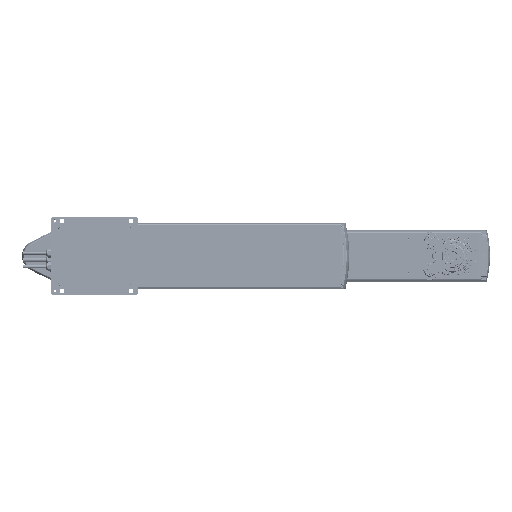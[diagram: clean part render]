
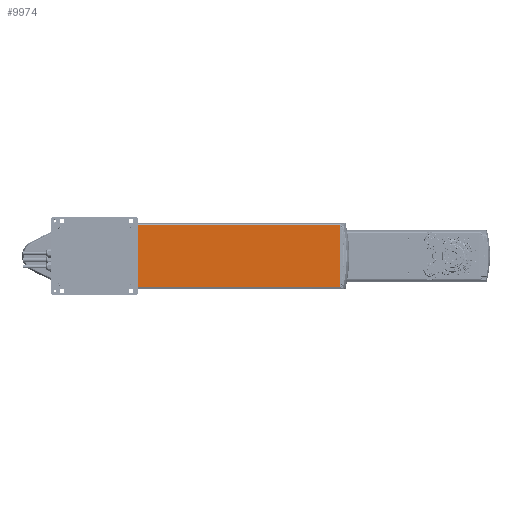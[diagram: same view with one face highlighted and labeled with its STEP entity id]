
A CAD part, front view. The second image highlights one B-rep face of the part: STEP entity #9974.
In plain terms, the highlighted planar face has unit normal (0, -1, 0) as drawn and (0, 0, 1) by its records, which use the part's own axes.
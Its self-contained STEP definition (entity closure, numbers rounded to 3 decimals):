
#629 = EDGE_CURVE ( 'NONE', #67348, #53483, #371543, .T. ) ;
#2817 = CARTESIAN_POINT ( 'NONE',  ( 0., 0., -1.5 ) ) ;
#6249 = VERTEX_POINT ( 'NONE', #113354 ) ;
#9974 = ADVANCED_FACE ( 'NONE', ( #70671, #368321 ), #204201, .T. ) ;
#13789 = CIRCLE ( 'NONE', #20973, 11.3 ) ;
#20973 = AXIS2_PLACEMENT_3D ( 'NONE', #204725, #101850, #73335 ) ;
#21072 = VECTOR ( 'NONE', #58029, 1000. ) ;
#27076 = EDGE_LOOP ( 'NONE', ( #158880, #199813 ) ) ;
#28089 = DIRECTION ( 'NONE',  ( 0., 0., -1. ) ) ;
#28091 = EDGE_CURVE ( 'NONE', #52772, #53483, #194124, .T. ) ;
#42358 = CARTESIAN_POINT ( 'NONE',  ( -110., 682., -1.5 ) ) ;
#52772 = VERTEX_POINT ( 'NONE', #219739 ) ;
#53483 = VERTEX_POINT ( 'NONE', #380146 ) ;
#58029 = DIRECTION ( 'NONE',  ( -1., 0., 0. ) ) ;
#60929 = CARTESIAN_POINT ( 'NONE',  ( 0., 680., -1.5 ) ) ;
#67348 = VERTEX_POINT ( 'NONE', #333648 ) ;
#70671 = FACE_BOUND ( 'NONE', #27076, .T. ) ;
#71717 = DIRECTION ( 'NONE',  ( 0., 1., 0. ) ) ;
#73335 = DIRECTION ( 'NONE',  ( 1., 0., 0. ) ) ;
#82088 = DIRECTION ( 'NONE',  ( 1., 0., 0. ) ) ;
#89223 = CARTESIAN_POINT ( 'NONE',  ( -88., 682., -1.5 ) ) ;
#89473 = EDGE_CURVE ( 'NONE', #118505, #177338, #245618, .T. ) ;
#101850 = DIRECTION ( 'NONE',  ( 0., 0., -1. ) ) ;
#104680 = DIRECTION ( 'NONE',  ( 0., 0., -1. ) ) ;
#106736 = CARTESIAN_POINT ( 'NONE',  ( 88., 775., -1.5 ) ) ;
#108126 = EDGE_CURVE ( 'NONE', #67348, #367220, #357878, .T. ) ;
#113354 = CARTESIAN_POINT ( 'NONE',  ( -88., 678., -1.5 ) ) ;
#118505 = VERTEX_POINT ( 'NONE', #223035 ) ;
#129467 = EDGE_CURVE ( 'NONE', #6249, #375878, #397832, .T. ) ;
#130622 = LINE ( 'NONE', #42358, #306466 ) ;
#135585 = EDGE_CURVE ( 'NONE', #145571, #296522, #13789, .T. ) ;
#136131 = CARTESIAN_POINT ( 'NONE',  ( -88., 0., -1.5 ) ) ;
#145571 = VERTEX_POINT ( 'NONE', #314301 ) ;
#152350 = ORIENTED_EDGE ( 'NONE', *, *, #310160, .T. ) ;
#154706 = DIRECTION ( 'NONE',  ( 0., -1., 0. ) ) ;
#158880 = ORIENTED_EDGE ( 'NONE', *, *, #135585, .T. ) ;
#163489 = DIRECTION ( 'NONE',  ( -1., 0., 0. ) ) ;
#171453 = ORIENTED_EDGE ( 'NONE', *, *, #377281, .F. ) ;
#177338 = VERTEX_POINT ( 'NONE', #349769 ) ;
#187245 = VECTOR ( 'NONE', #190109, 1000. ) ;
#190109 = DIRECTION ( 'NONE',  ( 1., 0., 0. ) ) ;
#194124 = LINE ( 'NONE', #421820, #329561 ) ;
#195587 = DIRECTION ( 'NONE',  ( 1., 0., 0. ) ) ;
#197729 = DIRECTION ( 'NONE',  ( 0., 0., 1. ) ) ;
#198427 = ORIENTED_EDGE ( 'NONE', *, *, #350466, .T. ) ;
#199064 = AXIS2_PLACEMENT_3D ( 'NONE', #2817, #197729, #195587 ) ;
#199813 = ORIENTED_EDGE ( 'NONE', *, *, #207848, .T. ) ;
#203824 = ORIENTED_EDGE ( 'NONE', *, *, #89473, .T. ) ;
#204201 = PLANE ( 'NONE',  #199064 ) ;
#204725 = CARTESIAN_POINT ( 'NONE',  ( 0., 589., -1.5 ) ) ;
#205363 = CARTESIAN_POINT ( 'NONE',  ( 0., 680., -1.5 ) ) ;
#207848 = EDGE_CURVE ( 'NONE', #296522, #145571, #285081, .T. ) ;
#208081 = DIRECTION ( 'NONE',  ( 1., 0., 0. ) ) ;
#214507 = VERTEX_POINT ( 'NONE', #89223 ) ;
#219739 = CARTESIAN_POINT ( 'NONE',  ( -88., 775., -1.5 ) ) ;
#222696 = DIRECTION ( 'NONE',  ( 1., 0., 0. ) ) ;
#223035 = CARTESIAN_POINT ( 'NONE',  ( -67.77, 682., -1.5 ) ) ;
#225906 = CARTESIAN_POINT ( 'NONE',  ( -67.77, 678., -1.5 ) ) ;
#227918 = CARTESIAN_POINT ( 'NONE',  ( -11.3, 589., -1.5 ) ) ;
#230860 = CARTESIAN_POINT ( 'NONE',  ( 0., 0., -1.5 ) ) ;
#238767 = CARTESIAN_POINT ( 'NONE',  ( 0., 589., -1.5 ) ) ;
#245618 = CIRCLE ( 'NONE', #357414, 67.8 ) ;
#253713 = ORIENTED_EDGE ( 'NONE', *, *, #129467, .F. ) ;
#260606 = CARTESIAN_POINT ( 'NONE',  ( -88., 0., -1.5 ) ) ;
#265390 = LINE ( 'NONE', #136131, #323183 ) ;
#267526 = DIRECTION ( 'NONE',  ( 0., -1., 0. ) ) ;
#269424 = DIRECTION ( 'NONE',  ( 0., 0., -1. ) ) ;
#285081 = CIRCLE ( 'NONE', #403709, 11.3 ) ;
#286103 = EDGE_CURVE ( 'NONE', #177338, #375878, #365454, .T. ) ;
#288628 = CARTESIAN_POINT ( 'NONE',  ( -110., 678., -1.5 ) ) ;
#292956 = VECTOR ( 'NONE', #71717, 1000. ) ;
#296522 = VERTEX_POINT ( 'NONE', #227918 ) ;
#301557 = DIRECTION ( 'NONE',  ( 1., 0., 0. ) ) ;
#306466 = VECTOR ( 'NONE', #163489, 1000. ) ;
#310160 = EDGE_CURVE ( 'NONE', #52772, #214507, #265390, .T. ) ;
#312182 = ORIENTED_EDGE ( 'NONE', *, *, #28091, .F. ) ;
#314301 = CARTESIAN_POINT ( 'NONE',  ( 11.3, 589., -1.5 ) ) ;
#318857 = CARTESIAN_POINT ( 'NONE',  ( -88., 0., -1.5 ) ) ;
#323183 = VECTOR ( 'NONE', #267526, 1000. ) ;
#328965 = ORIENTED_EDGE ( 'NONE', *, *, #629, .T. ) ;
#329561 = VECTOR ( 'NONE', #222696, 1000. ) ;
#333648 = CARTESIAN_POINT ( 'NONE',  ( 88., 0., -1.5 ) ) ;
#346514 = EDGE_LOOP ( 'NONE', ( #171453, #203824, #416019, #253713, #198427, #430010, #328965, #312182, #152350 ) ) ;
#349769 = CARTESIAN_POINT ( 'NONE',  ( 67.8, 680., -1.5 ) ) ;
#350466 = EDGE_CURVE ( 'NONE', #6249, #367220, #382328, .T. ) ;
#357414 = AXIS2_PLACEMENT_3D ( 'NONE', #205363, #104680, #82088 ) ;
#357878 = LINE ( 'NONE', #230860, #21072 ) ;
#365454 = CIRCLE ( 'NONE', #379225, 67.8 ) ;
#367220 = VERTEX_POINT ( 'NONE', #260606 ) ;
#368321 = FACE_OUTER_BOUND ( 'NONE', #346514, .T. ) ;
#371543 = LINE ( 'NONE', #106736, #292956 ) ;
#375878 = VERTEX_POINT ( 'NONE', #225906 ) ;
#377281 = EDGE_CURVE ( 'NONE', #118505, #214507, #130622, .T. ) ;
#379225 = AXIS2_PLACEMENT_3D ( 'NONE', #60929, #28089, #301557 ) ;
#380146 = CARTESIAN_POINT ( 'NONE',  ( 88., 775., -1.5 ) ) ;
#382328 = LINE ( 'NONE', #318857, #405127 ) ;
#397832 = LINE ( 'NONE', #288628, #187245 ) ;
#403709 = AXIS2_PLACEMENT_3D ( 'NONE', #238767, #269424, #208081 ) ;
#405127 = VECTOR ( 'NONE', #154706, 1000. ) ;
#416019 = ORIENTED_EDGE ( 'NONE', *, *, #286103, .T. ) ;
#421820 = CARTESIAN_POINT ( 'NONE',  ( 0., 775., -1.5 ) ) ;
#430010 = ORIENTED_EDGE ( 'NONE', *, *, #108126, .F. ) ;
